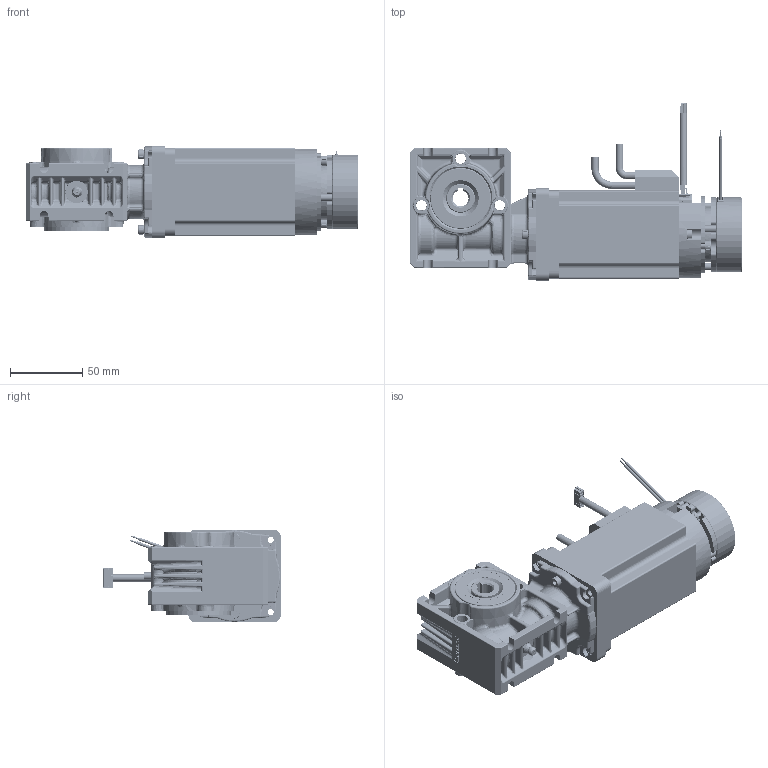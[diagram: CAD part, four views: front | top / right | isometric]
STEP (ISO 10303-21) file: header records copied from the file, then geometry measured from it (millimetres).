
FILE_DESCRIPTION (( 'STEP AP214' ), '1' );
FILE_NAME ('PBL60-50-GB28 - Encoder - Brake.STEP', '2024-09-14T12:55:22', ( '' ), ( '' ), 'SwSTEP 2.0', 'SolidWorks 2023', '' );
FILE_SCHEMA (( 'AUTOMOTIVE_DESIGN' ));
Length unit declared in the file: millimetre
Products named in the file (1): PBL60-50-GB28 - Encoder - Brake
Bounding box: 229.74 x 122.95 x 64 mm (x, y, z)
Volume: 617303.3 mm3; surface area: 183604.2 mm2
Topology: 46 solids, 46 shells, 7212 faces, 19160 edges, 12204 vertices
Faces by surface type: cylinder 2789, plane 2761, bspline 1006, cone 340, torus 184, sphere 132
Entity records: 364187 total; most frequent: CARTESIAN_POINT 112928, ORIENTED_EDGE 38030, DIRECTION 32913, EDGE_CURVE 19015, VERTEX_POINT 12195, AXIS2_PLACEMENT_3D 11670, LINE 9573, VECTOR 9573
